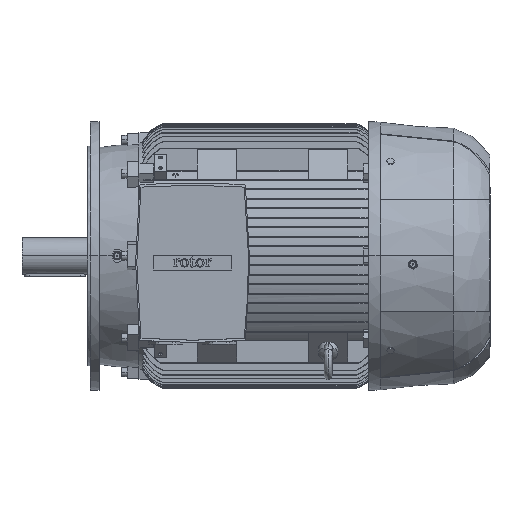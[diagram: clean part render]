
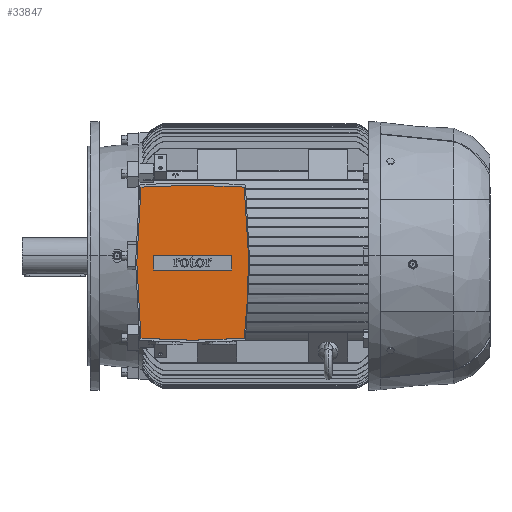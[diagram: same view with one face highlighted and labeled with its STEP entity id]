
A CAD part, top view. The second image highlights one B-rep face of the part: STEP entity #33847.
In plain terms, the highlighted planar face has unit normal (0, 0, 1).
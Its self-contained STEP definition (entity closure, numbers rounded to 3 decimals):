
#425 = B_SPLINE_CURVE_WITH_KNOTS ( 'NONE', 3,
 ( #11399, #36333, #6431, #15543 ),
 .UNSPECIFIED., .F., .F.,
 ( 4, 4 ),
 ( 0., 0.5 ),
 .UNSPECIFIED. ) ;
#594 = ORIENTED_EDGE ( 'NONE', *, *, #20434, .F. ) ;
#792 = VECTOR ( 'NONE', #52058, 1000. ) ;
#1474 = CARTESIAN_POINT ( 'NONE',  ( 39.333, -172.199, 433. ) ) ;
#2373 = CARTESIAN_POINT ( 'NONE',  ( 221.629, 89.112, 433. ) ) ;
#2591 = CARTESIAN_POINT ( 'NONE',  ( 110., -173.5, 433. ) ) ;
#3830 = CARTESIAN_POINT ( 'NONE',  ( -4.5, -14.5, 433. ) ) ;
#3922 = VERTEX_POINT ( 'NONE', #10197 ) ;
#5202 = CARTESIAN_POINT ( 'NONE',  ( 110., 144.5, 433. ) ) ;
#5231 = CARTESIAN_POINT ( 'NONE',  ( 4.096, 140.6, 433. ) ) ;
#5577 = CARTESIAN_POINT ( 'NONE',  ( 180.667, 143.199, 433. ) ) ;
#5870 = CARTESIAN_POINT ( 'NONE',  ( 215.904, -169.6, 433. ) ) ;
#6431 = CARTESIAN_POINT ( 'NONE',  ( -4.5, -66.306, 433. ) ) ;
#7383 = ORIENTED_EDGE ( 'NONE', *, *, #16618, .F. ) ;
#7553 = EDGE_CURVE ( 'NONE', #39257, #10868, #34206, .T. ) ;
#7596 = CARTESIAN_POINT ( 'NONE',  ( 110., 0.5, 433. ) ) ;
#9459 = CARTESIAN_POINT ( 'NONE',  ( 30., -29.5, 433. ) ) ;
#9595 = VECTOR ( 'NONE', #15950, 1000. ) ;
#9832 = CARTESIAN_POINT ( 'NONE',  ( 110., 144.5, 433. ) ) ;
#10197 = CARTESIAN_POINT ( 'NONE',  ( 110., -173.5, 433. ) ) ;
#10868 = VERTEX_POINT ( 'NONE', #11233 ) ;
#10886 = CARTESIAN_POINT ( 'NONE',  ( 215.904, 140.6, 433. ) ) ;
#11233 = CARTESIAN_POINT ( 'NONE',  ( 190., -29.5, 433. ) ) ;
#11399 = CARTESIAN_POINT ( 'NONE',  ( 4.096, -169.6, 433. ) ) ;
#12526 = B_SPLINE_CURVE_WITH_KNOTS ( 'NONE', 3,
 ( #47370, #34427, #1474, #30746 ),
 .UNSPECIFIED., .F., .F.,
 ( 4, 4 ),
 ( 0., 1. ),
 .UNSPECIFIED. ) ;
#14189 = EDGE_CURVE ( 'NONE', #35345, #26567, #32336, .T. ) ;
#15057 = CARTESIAN_POINT ( 'NONE',  ( 224.5, -66.306, 433. ) ) ;
#15470 = CARTESIAN_POINT ( 'NONE',  ( 215.904, 140.6, 433. ) ) ;
#15543 = CARTESIAN_POINT ( 'NONE',  ( -4.5, -14.5, 433. ) ) ;
#15950 = DIRECTION ( 'NONE',  ( 1., 0., 0. ) ) ;
#16476 = ORIENTED_EDGE ( 'NONE', *, *, #26029, .F. ) ;
#16618 = EDGE_CURVE ( 'NONE', #20203, #52279, #31968, .T. ) ;
#17785 = CARTESIAN_POINT ( 'NONE',  ( 145.333, 144.5, 433. ) ) ;
#19224 = CARTESIAN_POINT ( 'NONE',  ( 215.904, -169.6, 433. ) ) ;
#19296 = ORIENTED_EDGE ( 'NONE', *, *, #53988, .F. ) ;
#19593 = VECTOR ( 'NONE', #28376, 1000. ) ;
#19774 = ORIENTED_EDGE ( 'NONE', *, *, #46668, .F. ) ;
#20203 = VERTEX_POINT ( 'NONE', #15470 ) ;
#20434 = EDGE_CURVE ( 'NONE', #44104, #36302, #43025, .T. ) ;
#20490 = PLANE ( 'NONE',  #35401 ) ;
#20690 = ORIENTED_EDGE ( 'NONE', *, *, #23816, .F. ) ;
#21248 = VECTOR ( 'NONE', #30738, 1000. ) ;
#21956 = LINE ( 'NONE', #7596, #9595 ) ;
#23816 = EDGE_CURVE ( 'NONE', #25048, #50583, #425, .T. ) ;
#24165 = CARTESIAN_POINT ( 'NONE',  ( 110., -29.5, 433. ) ) ;
#24420 = B_SPLINE_CURVE_WITH_KNOTS ( 'NONE', 3,
 ( #44229, #31489, #27625, #2591 ),
 .UNSPECIFIED., .F., .F.,
 ( 4, 4 ),
 ( 0., 1. ),
 .UNSPECIFIED. ) ;
#24661 = DIRECTION ( 'NONE',  ( 1., 0., 0. ) ) ;
#25048 = VERTEX_POINT ( 'NONE', #42530 ) ;
#25713 = ORIENTED_EDGE ( 'NONE', *, *, #7553, .T. ) ;
#26029 = EDGE_CURVE ( 'NONE', #50583, #44104, #51688, .T. ) ;
#26354 = CARTESIAN_POINT ( 'NONE',  ( 74.667, 144.5, 433. ) ) ;
#26567 = VERTEX_POINT ( 'NONE', #48530 ) ;
#26879 = CARTESIAN_POINT ( 'NONE',  ( 190., -14.5, 433. ) ) ;
#27078 = EDGE_LOOP ( 'NONE', ( #33940, #25713, #37400, #38454 ) ) ;
#27405 = CARTESIAN_POINT ( 'NONE',  ( 224.5, 37.306, 433. ) ) ;
#27625 = CARTESIAN_POINT ( 'NONE',  ( 145.333, -173.5, 433. ) ) ;
#28376 = DIRECTION ( 'NONE',  ( -1., 0., 0. ) ) ;
#29483 = ORIENTED_EDGE ( 'NONE', *, *, #48420, .F. ) ;
#29909 = CARTESIAN_POINT ( 'NONE',  ( 4.096, 140.6, 433. ) ) ;
#30186 = CARTESIAN_POINT ( 'NONE',  ( -1.629, 89.112, 433. ) ) ;
#30738 = DIRECTION ( 'NONE',  ( 0., 1., 0. ) ) ;
#30746 = CARTESIAN_POINT ( 'NONE',  ( 4.096, -169.6, 433. ) ) ;
#30865 = B_SPLINE_CURVE_WITH_KNOTS ( 'NONE', 3,
 ( #5202, #17785, #5577, #34749 ),
 .UNSPECIFIED., .F., .F.,
 ( 4, 4 ),
 ( 0., 1. ),
 .UNSPECIFIED. ) ;
#31489 = CARTESIAN_POINT ( 'NONE',  ( 180.667, -172.199, 433. ) ) ;
#31968 = B_SPLINE_CURVE_WITH_KNOTS ( 'NONE', 3,
 ( #10886, #2373, #27405, #15057, #44189, #19224 ),
 .UNSPECIFIED., .F., .F.,
 ( 4, 2, 4 ),
 ( 0., 0.5, 1. ),
 .UNSPECIFIED. ) ;
#32336 = LINE ( 'NONE', #47362, #21248 ) ;
#32525 = EDGE_LOOP ( 'NONE', ( #19774, #594, #16476, #20690, #29483, #19296, #7383 ) ) ;
#33847 = ADVANCED_FACE ( 'NONE', ( #38617, #49707 ), #20490, .T. ) ;
#33940 = ORIENTED_EDGE ( 'NONE', *, *, #39304, .T. ) ;
#34206 = LINE ( 'NONE', #26879, #792 ) ;
#34427 = CARTESIAN_POINT ( 'NONE',  ( 74.667, -173.5, 433. ) ) ;
#34749 = CARTESIAN_POINT ( 'NONE',  ( 215.904, 140.6, 433. ) ) ;
#34768 = CARTESIAN_POINT ( 'NONE',  ( 4.096, 140.6, 433. ) ) ;
#35345 = VERTEX_POINT ( 'NONE', #9459 ) ;
#35401 = AXIS2_PLACEMENT_3D ( 'NONE', #37092, #49674, #24661 ) ;
#36302 = VERTEX_POINT ( 'NONE', #43114 ) ;
#36333 = CARTESIAN_POINT ( 'NONE',  ( -1.629, -118.112, 433. ) ) ;
#37092 = CARTESIAN_POINT ( 'NONE',  ( 110., -14.5, 433. ) ) ;
#37400 = ORIENTED_EDGE ( 'NONE', *, *, #51516, .T. ) ;
#38454 = ORIENTED_EDGE ( 'NONE', *, *, #14189, .T. ) ;
#38617 = FACE_OUTER_BOUND ( 'NONE', #32525, .T. ) ;
#39257 = VERTEX_POINT ( 'NONE', #53137 ) ;
#39304 = EDGE_CURVE ( 'NONE', #26567, #39257, #21956, .T. ) ;
#42530 = CARTESIAN_POINT ( 'NONE',  ( 4.096, -169.6, 433. ) ) ;
#42578 = CARTESIAN_POINT ( 'NONE',  ( -4.5, -14.5, 433. ) ) ;
#43025 = B_SPLINE_CURVE_WITH_KNOTS ( 'NONE', 3,
 ( #34768, #51348, #26354, #9832 ),
 .UNSPECIFIED., .F., .F.,
 ( 4, 4 ),
 ( 0., 1. ),
 .UNSPECIFIED. ) ;
#43114 = CARTESIAN_POINT ( 'NONE',  ( 110., 144.5, 433. ) ) ;
#44104 = VERTEX_POINT ( 'NONE', #29909 ) ;
#44189 = CARTESIAN_POINT ( 'NONE',  ( 221.629, -118.112, 433. ) ) ;
#44229 = CARTESIAN_POINT ( 'NONE',  ( 215.904, -169.6, 433. ) ) ;
#46668 = EDGE_CURVE ( 'NONE', #36302, #20203, #30865, .T. ) ;
#47362 = CARTESIAN_POINT ( 'NONE',  ( 30., -14.5, 433. ) ) ;
#47370 = CARTESIAN_POINT ( 'NONE',  ( 110., -173.5, 433. ) ) ;
#48420 = EDGE_CURVE ( 'NONE', #3922, #25048, #12526, .T. ) ;
#48530 = CARTESIAN_POINT ( 'NONE',  ( 30., 0.5, 433. ) ) ;
#49674 = DIRECTION ( 'NONE',  ( 0., 0., 1. ) ) ;
#49707 = FACE_BOUND ( 'NONE', #27078, .T. ) ;
#50583 = VERTEX_POINT ( 'NONE', #3830 ) ;
#50838 = CARTESIAN_POINT ( 'NONE',  ( -4.5, 37.306, 433. ) ) ;
#51348 = CARTESIAN_POINT ( 'NONE',  ( 39.333, 143.199, 433. ) ) ;
#51516 = EDGE_CURVE ( 'NONE', #10868, #35345, #52850, .T. ) ;
#51688 = B_SPLINE_CURVE_WITH_KNOTS ( 'NONE', 3,
 ( #42578, #50838, #30186, #5231 ),
 .UNSPECIFIED., .F., .F.,
 ( 4, 4 ),
 ( 0.5, 1. ),
 .UNSPECIFIED. ) ;
#52058 = DIRECTION ( 'NONE',  ( 0., -1., 0. ) ) ;
#52279 = VERTEX_POINT ( 'NONE', #5870 ) ;
#52850 = LINE ( 'NONE', #24165, #19593 ) ;
#53137 = CARTESIAN_POINT ( 'NONE',  ( 190., 0.5, 433. ) ) ;
#53988 = EDGE_CURVE ( 'NONE', #52279, #3922, #24420, .T. ) ;
